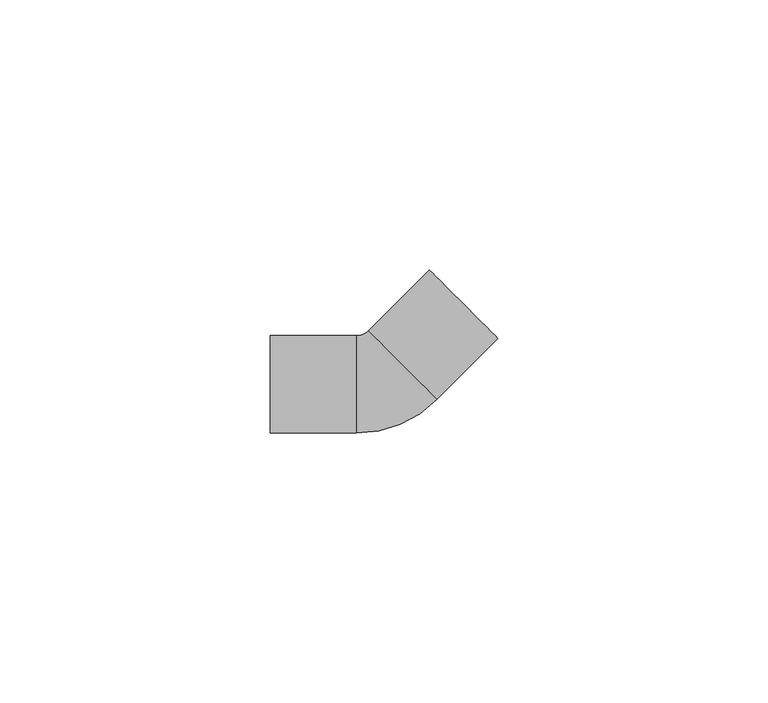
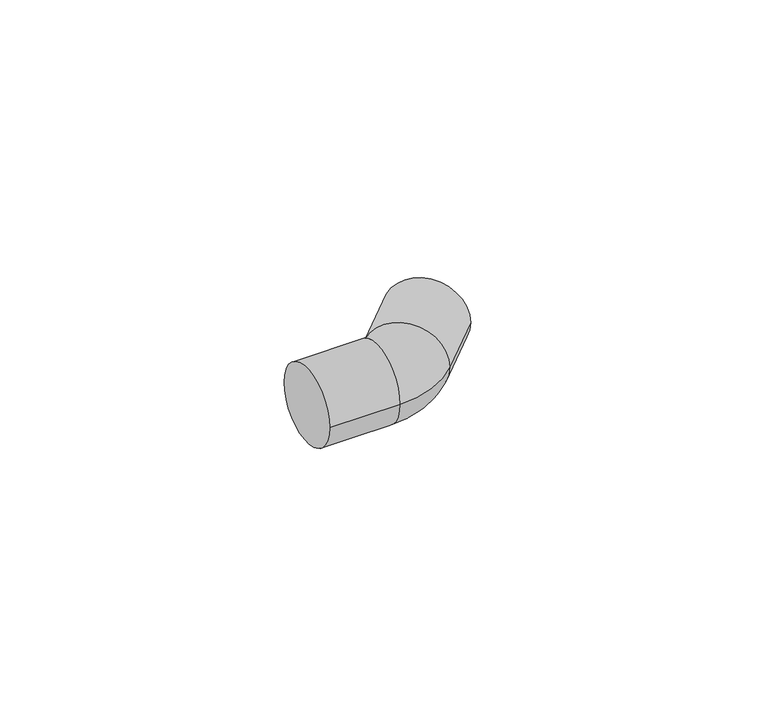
"""IFC4 building model written with IfcOpenShell, lengths in millimetres: pipe fitting geometry, 01051067 : Coudes à 45º."""

import ifcopenshell
import ifcopenshell.guid

model = None  # the IFC model being written
_history = None  # IfcOwnerHistory: only IFC2X3 demands one
_inside = {}  # id of a spatial element -> (the spatial element, [elements in it])
_under = {}  # id of a project, library or spatial element -> (it, [spatial elements below it])
_declared = {}  # id of a project -> (the project, [libraries it declares])
_typed = {}  # id of a type object -> (the type object, [elements of that type])
_made_of = {}  # id of a material, layer set ... -> (it, [elements and type objects made of it])


def new_model(schema):
    """Start an empty IFC model of exactly this schema.

    Asked for "IFC4X3", IfcOpenShell would pick the latest addendum, in which some entities
    have other attributes; the version numbers below select the first issue.
    IFC2X3 requires an IfcOwnerHistory on every rooted entity: one is made here for all.
    """
    global model, _history
    if schema == "IFC4X3":
        model = ifcopenshell.file(schema_version=(4, 3, 0, 0))
    else:
        model = ifcopenshell.file(schema=schema)
    _inside.clear()
    _under.clear()
    _declared.clear()
    _typed.clear()
    _made_of.clear()
    _history = None
    if model.schema == "IFC2X3":
        org = make("IfcOrganization", Name="unknown")
        user = make(
            "IfcPersonAndOrganization",
            ThePerson=make("IfcPerson", FamilyName="unknown"),
            TheOrganization=org,
        )
        app = make(
            "IfcApplication",
            ApplicationDeveloper=org,
            Version="unknown",
            ApplicationFullName="unknown",
            ApplicationIdentifier="unknown",
        )
        _history = make(
            "IfcOwnerHistory",
            OwningUser=user,
            OwningApplication=app,
            ChangeAction="ADDED",
            CreationDate=0,
        )
    return model


def make(cls, **values):
    """One entity of the class cls with the attributes given. An attribute that is None is left unset."""
    return model.create_entity(
        cls, **{name: value for name, value in values.items() if value is not None}
    )


def rooted(cls, **values):
    """An entity with a GlobalId (a new one), such as an element, a storey or a relation."""
    return make(cls, GlobalId=ifcopenshell.guid.new(), OwnerHistory=_history, **values)


def si_unit(unit_type, name, prefix=None):
    """IfcSIUnit, for example si_unit("LENGTHUNIT", "METRE", prefix="MILLI")."""
    return make("IfcSIUnit", UnitType=unit_type, Prefix=prefix, Name=name)


def assignment(units):
    """IfcUnitAssignment: the units of a project."""
    return None if units is None else make("IfcUnitAssignment", Units=units)


def point(xyz):
    """IfcCartesianPoint."""
    return None if xyz is None else make("IfcCartesianPoint", Coordinates=xyz)


def direction(xyz):
    """IfcDirection."""
    return None if xyz is None else make("IfcDirection", DirectionRatios=xyz)


def frame(location, z_axis=None, x_axis=None):
    """IfcAxis2Placement3D, a coordinate frame: its origin and axes. An axis left out is left unset."""
    return make(
        "IfcAxis2Placement3D",
        Location=point(location),
        Axis=direction(z_axis),
        RefDirection=direction(x_axis),
    )


def origin():
    """The frame at (0, 0, 0) with its axes left unset."""
    return frame((0.0, 0.0, 0.0))


def place(relative_to, where):
    """IfcLocalPlacement: puts the frame where relative to a parent placement (None: the world)."""
    return make(
        "IfcLocalPlacement", PlacementRelTo=relative_to, RelativePlacement=where
    )


def context(
    kind, dimensions, precision=None, world=None, true_north=None, identifier=None
):
    """IfcGeometricRepresentationContext, for example the 3D "Model" context."""
    return make(
        "IfcGeometricRepresentationContext",
        ContextIdentifier=identifier,
        ContextType=kind,
        CoordinateSpaceDimension=dimensions,
        Precision=precision,
        WorldCoordinateSystem=world,
        TrueNorth=true_north,
    )


def project(units=None, contexts=None):
    """IfcProject with its units and contexts."""
    return rooted(
        "IfcProject",
        Name="project",
        RepresentationContexts=contexts,
        UnitsInContext=assignment(units),
    )


def spatial(cls, under=None, at=None, **own):
    """A site, building, storey or space (cls), placed at a placement, below another one or the project."""
    s = rooted(cls, ObjectPlacement=at, **own)
    if under is not None:
        _under.setdefault(under.id(), (under, []))[1].append(s)
    return s


def circle_curve(where, radius):
    """IfcCircle in the frame where."""
    return make("IfcCircle", Position=where, Radius=radius)


def ellipse_curve(where, semi_axis1, semi_axis2):
    """IfcEllipse in the frame where."""
    return make(
        "IfcEllipse", Position=where, SemiAxis1=semi_axis1, SemiAxis2=semi_axis2
    )


def trimmed(basis, trim1, trim2, sense, master):
    """IfcTrimmedCurve: the piece of a basis curve between two trims."""
    return make(
        "IfcTrimmedCurve",
        BasisCurve=basis,
        Trim1=trim1,
        Trim2=trim2,
        SenseAgreement=sense,
        MasterRepresentation=master,
    )


def shape(context_of_items, identifier, shape_type, items):
    """IfcShapeRepresentation: the items that make up one representation, for example the "Body"."""
    return make(
        "IfcShapeRepresentation",
        ContextOfItems=context_of_items,
        RepresentationIdentifier=identifier,
        RepresentationType=shape_type,
        Items=items,
    )


def source(mapping_origin, context_of_items, identifier, shape_type, items):
    """IfcRepresentationMap: a shape defined once, which mapped items show again and again."""
    return make(
        "IfcRepresentationMap",
        MappingOrigin=mapping_origin,
        MappedRepresentation=shape(context_of_items, identifier, shape_type, items),
    )


def transform(
    local_origin,
    x_axis=None,
    y_axis=None,
    z_axis=None,
    scale=None,
    scale2=None,
    scale3=None,
    uniform=True,
):
    """IfcCartesianTransformationOperator3D, or its non-uniform kind. x_axis, y_axis, z_axis: its Axis1, 2, 3."""
    if uniform:
        return make(
            "IfcCartesianTransformationOperator3D",
            Axis1=direction(x_axis),
            Axis2=direction(y_axis),
            LocalOrigin=point(local_origin),
            Scale=scale,
            Axis3=direction(z_axis),
        )
    return make(
        "IfcCartesianTransformationOperator3DnonUniform",
        Axis1=direction(x_axis),
        Axis2=direction(y_axis),
        LocalOrigin=point(local_origin),
        Scale=scale,
        Axis3=direction(z_axis),
        Scale2=scale2,
        Scale3=scale3,
    )


def mapped(mapping_source, mapping_target):
    """IfcMappedItem: shows the shape of a source again, moved by a transform."""
    return make(
        "IfcMappedItem", MappingSource=mapping_source, MappingTarget=mapping_target
    )


def made_of(thing, what):
    """Note that an element or type object is made of a material, layer set ...; save() writes the relation."""
    if what is not None:
        _made_of.setdefault(what.id(), (what, []))[1].append(thing)
    return thing


def element(
    cls,
    number,
    at=None,
    inside=None,
    cuts=None,
    type_object=None,
    material=None,
    context=None,
    identifier="Body",
    shape_type=None,
    held_by="IfcProductDefinitionShape",
    body=None,
    shapes=None,
    **own,
):
    """One element of the class cls, such as IfcWall. Its Tag is "e" and its number.

    at: its placement. inside: the storey or other place that contains it. cuts: it is an
    opening in that element (IfcRelVoidsElement). A single representation is given by context,
    identifier, shape_type and body (its items); several are given by shapes. held_by: the class
    of the entity that holds the representations. save() writes the other relations.
    """
    e = rooted(cls, Tag="e%d" % number, ObjectPlacement=at, **own)
    if body is not None:
        shapes = [shape(context, identifier, shape_type, body)]
    if shapes is not None:
        e.Representation = make(held_by, Representations=shapes)
    if inside is not None:
        _inside.setdefault(inside.id(), (inside, []))[1].append(e)
    if cuts is not None:
        rooted(
            "IfcRelVoidsElement", RelatingBuildingElement=cuts, RelatedOpeningElement=e
        )
    if type_object is not None:
        _typed.setdefault(type_object.id(), (type_object, []))[1].append(e)
    return made_of(e, material)


def aggregate(whole, parts):
    """IfcRelAggregates: a whole, such as a stair, and the parts it consists of."""
    return rooted("IfcRelAggregates", RelatingObject=whole, RelatedObjects=parts)


def save(model, path):
    """Write the relations noted so far, then the file.

    IfcRelAggregates (storeys below a building ...), IfcRelContainedInSpatialStructure (elements
    in a storey), IfcRelDefinesByType, IfcRelAssociatesMaterial and IfcRelDeclares: one each for
    every whole, place, type object, material and project.
    """
    for whole, parts in _under.values():
        aggregate(whole, parts)
    for where, things in _inside.values():
        rooted(
            "IfcRelContainedInSpatialStructure",
            RelatedElements=things,
            RelatingStructure=where,
        )
    for kind, things in _typed.values():
        rooted("IfcRelDefinesByType", RelatedObjects=things, RelatingType=kind)
    for what, things in _made_of.values():
        rooted("IfcRelAssociatesMaterial", RelatedObjects=things, RelatingMaterial=what)
    for by, libraries in _declared.values():
        rooted("IfcRelDeclares", RelatingContext=by, RelatedDefinitions=libraries)
    model.write(path)


def plane_surface(at):
    """IfcPlane: the flat surface through the origin of the frame at, square to its z axis."""
    return make("IfcPlane", Position=at)


def cylinder_surface(at, radius):
    """IfcCylindricalSurface: all points at the distance radius from the z axis of the frame at."""
    return make("IfcCylindricalSurface", Position=at, Radius=radius)


def revolved_surface(curve, axis_point, axis_direction):
    """IfcSurfaceOfRevolution: the curve turned about the line through axis_point along axis_direction."""
    return make(
        "IfcSurfaceOfRevolution",
        SweptCurve=make("IfcArbitraryOpenProfileDef", ProfileType="CURVE", Curve=curve),
        AxisPosition=make("IfcAxis1Placement", Location=point(axis_point), Axis=direction(axis_direction)),
    )


def advanced_brep(points, edges, surfaces, faces):
    """IfcAdvancedBrep: a solid bounded by faces that lie on surfaces and meet in shared edges.

    An edge is (start, end): straight between two places in points (the first is 0);
    or (start, end, curve); or (start, end, curve, False) where it runs against its curve.
    A face is (place in surfaces, loops), or (place, loops, False) where it looks against
    its surface's normal. A loop lists edges by number (the first is 1), with a minus sign
    where the edge is run from its end to its start. The first loop is the outer one.
    """
    corners = [point(p) for p in points]
    vertices = [make("IfcVertexPoint", VertexGeometry=c) for c in corners]
    made = []
    for start, end, *more in edges:
        made.append(
            make(
                "IfcEdgeCurve",
                EdgeStart=vertices[start],
                EdgeEnd=vertices[end],
                EdgeGeometry=more[0] if more else make("IfcPolyline", Points=[corners[start], corners[end]]),
                SameSense=more[1] if len(more) > 1 else True,
            )
        )
    hull = []
    for where, loops, *sense in faces:
        bounds = []
        for j, loop in enumerate(loops):
            ring = [make("IfcOrientedEdge", EdgeElement=made[abs(k) - 1], Orientation=k > 0) for k in loop]
            bounds.append(
                make(
                    "IfcFaceOuterBound" if j == 0 else "IfcFaceBound",
                    Bound=make("IfcEdgeLoop", EdgeList=ring),
                    Orientation=True,
                )
            )
        hull.append(make("IfcAdvancedFace", Bounds=bounds, FaceSurface=surfaces[where], SameSense=sense[0] if sense else True))
    return make("IfcAdvancedBrep", Outer=make("IfcClosedShell", CfsFaces=hull))


def pipe_fitting_9e40bfc4(model_context):
    return source(origin(), model_context, "Body", "AdvancedBrep", [
        advanced_brep(
        [(-21.0, -9.0, 0.0), (-21.0, 9.0, 0.0), (-5.0, -9.0, 0.0), (-5.0, 9.0, 0.0), (-2.8284271, 9.8994949, 0.0), (9.8994949, -2.8284271, 0.0), (21.2132034, 8.4852814, 0.0), (8.4852814, 21.2132034, 0.0)],
        [
            (0, 1, circle_curve(frame((-21.0, 0.0, 0.0), z_axis=(-1.0, 0.0, 0.0), x_axis=(0.0, 1.0, 0.0)), 9.0)),
            (1, 0, circle_curve(frame((-21.0, 0.0, 0.0), z_axis=(-1.0, 0.0, 0.0), x_axis=(0.0, 1.0, 0.0)), 9.0)),
            (0, 2),
            (2, 3, circle_curve(frame((-5.0, 0.0, 0.0), z_axis=(-1.0, 0.0, 0.0), x_axis=(0.0, 1.0, 0.0)), 9.0)),
            (3, 1),
            (3, 2, circle_curve(frame((-5.0, 0.0, 0.0), z_axis=(-1.0, 0.0, 0.0), x_axis=(0.0, 1.0, 0.0)), 9.0)),
            (4, 3, circle_curve(frame((-5.0, 12.0710678, 0.0), z_axis=(0.0, 0.0, -1.0), x_axis=(0.0, -1.0, 0.0)), 3.0710678)),
            (2, 5, circle_curve(frame((-5.0, 12.0710678, 0.0), z_axis=(0.0, 0.0, 1.0), x_axis=(0.0, -1.0, 0.0)), 21.0710678)),
            (5, 4, circle_curve(frame((3.5355339, 3.5355339, 0.0), z_axis=(-0.7071067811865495, -0.7071067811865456, 0.0), x_axis=(-0.7071067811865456, 0.7071067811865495, 0.0)), 9.0)),
            (4, 5, circle_curve(frame((3.5355339, 3.5355339, 0.0), z_axis=(-0.7071067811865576, -0.7071067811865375, 0.0), x_axis=(-0.7071067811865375, 0.7071067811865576, 0.0)), 9.0)),
            (6, 7, circle_curve(frame((14.8492424, 14.8492424, 0.0), z_axis=(0.7071067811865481, 0.707106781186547, 0.0), x_axis=(-0.707106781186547, 0.7071067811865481, 0.0)), 9.0)),
            (7, 6, circle_curve(frame((14.8492424, 14.8492424, 0.0), z_axis=(0.7071067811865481, 0.707106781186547, 0.0), x_axis=(-0.707106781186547, 0.7071067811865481, 0.0)), 9.0)),
            (5, 6),
            (7, 4),
        ],
        [
            plane_surface(frame((-21.0, 0.0, 0.0), z_axis=(-1.0, 0.0, 0.0), x_axis=(0.0, 0.0, 1.0))),
            cylinder_surface(frame((-21.0, 0.0, 0.0), z_axis=(-1.0, 0.0, 0.0), x_axis=(0.0, 1.0, 0.0)), 9.0),
            revolved_surface(trimmed(ellipse_curve(frame((-5.0, 0.0, 0.0), z_axis=(-1.0, 0.0, 0.0), x_axis=(0.0, 1.0, 0.0)), 9.0, 9.0), [point((-5.0, -9.0, 0.0))], [point((-5.0, 9.0, 0.0))], True, "CARTESIAN"), (-5.0, 12.0710678, 0.0), (0.0, 0.0, 1.0)),
            revolved_surface(trimmed(ellipse_curve(frame((-5.0, 0.0, 0.0), z_axis=(-1.0, 0.0, 0.0), x_axis=(0.0, 1.0, 0.0)), 9.0, 9.0), [point((-5.0, 9.0, 0.0))], [point((-5.0, -9.0, 0.0))], True, "CARTESIAN"), (-5.0, 12.0710678, 0.0), (0.0, 0.0, 1.0)),
            plane_surface(frame((14.8492424, 14.8492424, 0.0), z_axis=(0.707106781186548, 0.707106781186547, 0.0), x_axis=(0.0, 0.0, 1.0))),
            cylinder_surface(frame((3.5355339, 3.5355339, 0.0), z_axis=(-0.7071067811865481, -0.707106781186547, 0.0), x_axis=(-0.707106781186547, 0.7071067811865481, 0.0)), 9.0),
        ],
        [
            (0, [[1, 2]]),
            (1, [[-1, 3, 4, 5]]),
            (1, [[-2, -5, 6, -3]]),
            (2, [[7, -4, 8, 9]]),
            (3, [[-8, -6, -7, 10]]),
            (4, [[11, 12]]),
            (5, [[-9, 13, -12, 14]]),
            (5, [[-10, -14, -11, -13]]),
        ],
    ),
    ])


if __name__ == "__main__":
    model = new_model("IFC4")
    model_context = context("Model", 3, world=origin())
    ifc_project = project(units=[si_unit("LENGTHUNIT", "METRE", prefix="MILLI")], contexts=[model_context])
    site = spatial("IfcSite", under=ifc_project)
    building = spatial("IfcBuilding", under=site)
    placement = place(None, origin())
    pipe_fitting_shape = pipe_fitting_9e40bfc4(model_context)
    element("IfcPipeFitting", 1, ObjectType="01051067 : Coudes à 45º", at=placement, inside=building, context=model_context, shape_type="MappedRepresentation", body=[
        mapped(pipe_fitting_shape, transform((0.0, 0.0, 0.0), x_axis=(1.0, 0.0, 0.0), y_axis=(0.0, 1.0, 0.0), z_axis=(0.0, 0.0, 1.0))),
    ])
    save(model, "model.ifc")
